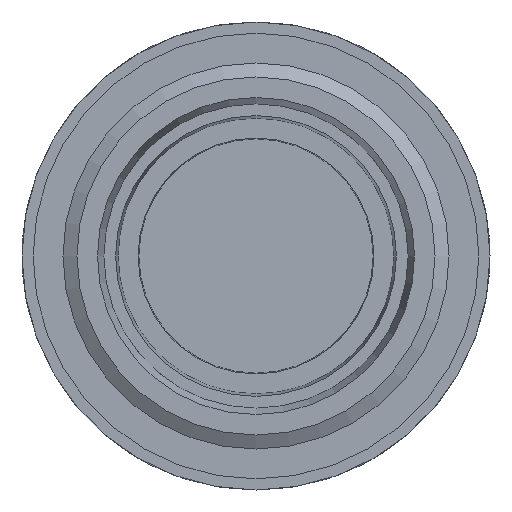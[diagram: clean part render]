
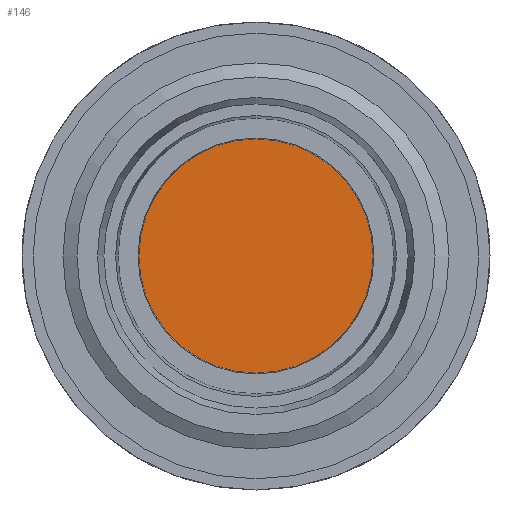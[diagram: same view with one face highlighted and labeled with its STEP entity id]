
A CAD part, left-side view. The second image highlights one B-rep face of the part: STEP entity #146.
In plain terms, the highlighted planar face has unit normal (-1, 0, 0).
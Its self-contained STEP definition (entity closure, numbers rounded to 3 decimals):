
#146 = ADVANCED_FACE( '', ( #465 ), #466, .F. );
#465 = FACE_OUTER_BOUND( '', #837, .T. );
#466 = PLANE( '', #838 );
#837 = EDGE_LOOP( '', ( #1505 ) );
#838 = AXIS2_PLACEMENT_3D( '', #1506, #1507, #1508 );
#1505 = ORIENTED_EDGE( '', *, *, #2074, .F. );
#1506 = CARTESIAN_POINT( '', ( 16.15, 0., 0. ) );
#1507 = DIRECTION( '', ( 1., 0., 0. ) );
#1508 = DIRECTION( '', ( 0., 1., 0. ) );
#2074 = EDGE_CURVE( '', #2561, #2561, #2562, .T. );
#2561 = VERTEX_POINT( '', #5848 );
#2562 = CIRCLE( '', #5849, 10.013 );
#5848 = CARTESIAN_POINT( '', ( 16.15, 10.013, 0. ) );
#5849 = AXIS2_PLACEMENT_3D( '', #6206, #6207, #6208 );
#6206 = CARTESIAN_POINT( '', ( 16.15, 0., 0. ) );
#6207 = DIRECTION( '', ( 1., 0., 0. ) );
#6208 = DIRECTION( '', ( 0., 1., 0. ) );
